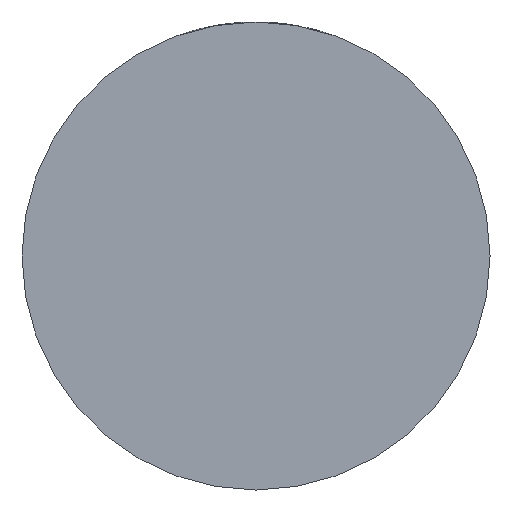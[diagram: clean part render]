
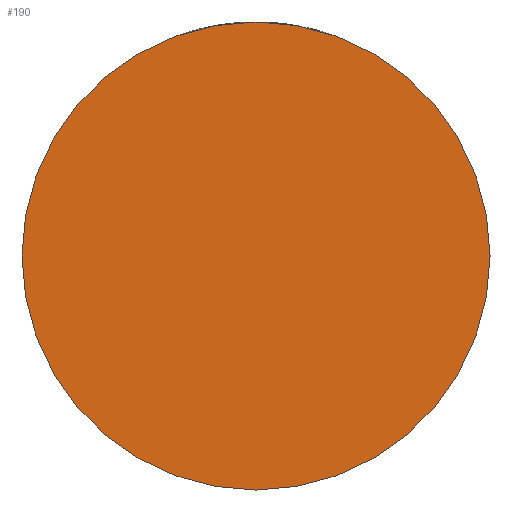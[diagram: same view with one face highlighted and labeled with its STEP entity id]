
A CAD part, front view. The second image highlights one B-rep face of the part: STEP entity #190.
In plain terms, the highlighted planar face has unit normal (0, -1, 0).
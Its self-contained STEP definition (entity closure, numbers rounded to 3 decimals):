
#68 = DIRECTION ( 'NONE',  ( 0., -1., 0. ) ) ;
#139 = EDGE_LOOP ( 'NONE', ( #2653, #946 ) ) ;
#180 = AXIS2_PLACEMENT_3D ( 'NONE', #2712, #68, #1428 ) ;
#190 = ADVANCED_FACE ( 'NONE', ( #2753 ), #1750, .T. ) ;
#596 = AXIS2_PLACEMENT_3D ( 'NONE', #1371, #1041, #3388 ) ;
#946 = ORIENTED_EDGE ( 'NONE', *, *, #3854, .T. ) ;
#1041 = DIRECTION ( 'NONE',  ( 0., -1., 0. ) ) ;
#1371 = CARTESIAN_POINT ( 'NONE',  ( 0., -26., 0. ) ) ;
#1428 = DIRECTION ( 'NONE',  ( 1., 0., 0. ) ) ;
#1657 = CARTESIAN_POINT ( 'NONE',  ( 32.5, -26., 0. ) ) ;
#1675 = CARTESIAN_POINT ( 'NONE',  ( -32.5, -26., 0. ) ) ;
#1750 = PLANE ( 'NONE',  #596 ) ;
#2287 = DIRECTION ( 'NONE',  ( 1., 0., 0. ) ) ;
#2383 = CARTESIAN_POINT ( 'NONE',  ( 0., -26., 0. ) ) ;
#2653 = ORIENTED_EDGE ( 'NONE', *, *, #3392, .T. ) ;
#2712 = CARTESIAN_POINT ( 'NONE',  ( 0., -26., 0. ) ) ;
#2753 = FACE_OUTER_BOUND ( 'NONE', #139, .T. ) ;
#2813 = VERTEX_POINT ( 'NONE', #1657 ) ;
#3008 = VERTEX_POINT ( 'NONE', #1675 ) ;
#3024 = CIRCLE ( 'NONE', #4163, 32.5 ) ;
#3388 = DIRECTION ( 'NONE',  ( 1., 0., 0. ) ) ;
#3392 = EDGE_CURVE ( 'NONE', #3008, #2813, #4012, .T. ) ;
#3737 = DIRECTION ( 'NONE',  ( 0., -1., 0. ) ) ;
#3854 = EDGE_CURVE ( 'NONE', #2813, #3008, #3024, .T. ) ;
#4012 = CIRCLE ( 'NONE', #180, 32.5 ) ;
#4163 = AXIS2_PLACEMENT_3D ( 'NONE', #2383, #3737, #2287 ) ;
